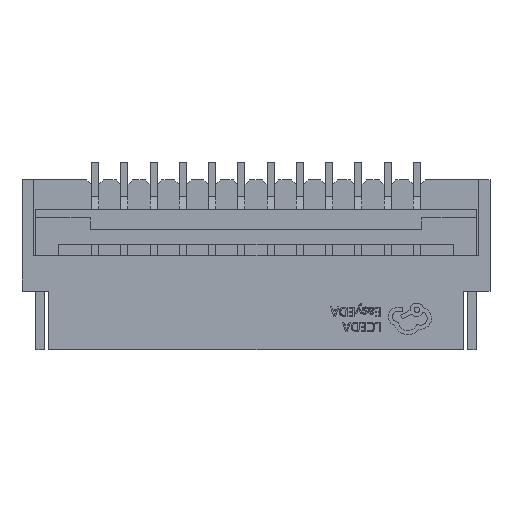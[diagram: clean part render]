
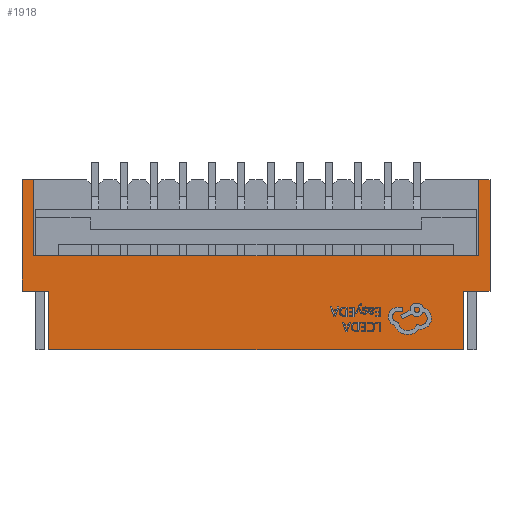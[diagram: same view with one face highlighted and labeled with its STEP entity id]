
A CAD part, top view. The second image highlights one B-rep face of the part: STEP entity #1918.
In plain terms, the highlighted planar face has unit normal (0, 0, 1).
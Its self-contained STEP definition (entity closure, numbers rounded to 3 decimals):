
#712 = ORIENTED_EDGE ( 'NONE', *, *, #15984, .T. ) ;
#748 = ORIENTED_EDGE ( 'NONE', *, *, #11835, .T. ) ;
#1126 = CARTESIAN_POINT ( 'NONE',  ( -0.79, -2.67, 0.9 ) ) ;
#1417 = ORIENTED_EDGE ( 'NONE', *, *, #8924, .F. ) ;
#1729 = LINE ( 'NONE', #1126, #20222 ) ;
#1918 = ADVANCED_FACE ( 'NONE', ( #11976 ), #23807, .T. ) ;
#2127 = CARTESIAN_POINT ( 'NONE',  ( 6.55, 0.23, 0.9 ) ) ;
#2339 = VERTEX_POINT ( 'NONE', #23339 ) ;
#2663 = CARTESIAN_POINT ( 'NONE',  ( 6.29, -2.67, 0.9 ) ) ;
#2840 = VECTOR ( 'NONE', #31603, 1000. ) ;
#3577 = CARTESIAN_POINT ( 'NONE',  ( 0., 0., 0.9 ) ) ;
#4709 = CARTESIAN_POINT ( 'NONE',  ( -1.25, 0.23, 0.9 ) ) ;
#5162 = DIRECTION ( 'NONE',  ( 0., -1., 0. ) ) ;
#5936 = CARTESIAN_POINT ( 'NONE',  ( 6.55, 0.23, 0.9 ) ) ;
#6468 = VERTEX_POINT ( 'NONE', #8246 ) ;
#7051 = VERTEX_POINT ( 'NONE', #34830 ) ;
#7544 = VECTOR ( 'NONE', #27692, 1000. ) ;
#7835 = LINE ( 'NONE', #10359, #36361 ) ;
#7989 = VECTOR ( 'NONE', #37404, 1000. ) ;
#8024 = DIRECTION ( 'NONE',  ( 0., 1., 0. ) ) ;
#8246 = CARTESIAN_POINT ( 'NONE',  ( -0.79, -1.67, 0.9 ) ) ;
#8552 = ORIENTED_EDGE ( 'NONE', *, *, #18562, .T. ) ;
#8641 = EDGE_CURVE ( 'NONE', #27806, #38241, #20383, .T. ) ;
#8924 = EDGE_CURVE ( 'NONE', #27338, #23058, #22689, .T. ) ;
#10004 = CARTESIAN_POINT ( 'NONE',  ( 6.29, -1.67, 0.9 ) ) ;
#10261 = DIRECTION ( 'NONE',  ( 1., 0., 0. ) ) ;
#10359 = CARTESIAN_POINT ( 'NONE',  ( -1.05, 0.23, 0.9 ) ) ;
#10880 = DIRECTION ( 'NONE',  ( 0., 1., 0. ) ) ;
#10942 = DIRECTION ( 'NONE',  ( -1., 0., 0. ) ) ;
#11778 = ORIENTED_EDGE ( 'NONE', *, *, #37652, .T. ) ;
#11835 = EDGE_CURVE ( 'NONE', #31482, #2339, #31291, .T. ) ;
#11976 = FACE_OUTER_BOUND ( 'NONE', #19871, .T. ) ;
#12383 = ORIENTED_EDGE ( 'NONE', *, *, #27899, .F. ) ;
#12714 = ORIENTED_EDGE ( 'NONE', *, *, #28575, .T. ) ;
#12867 = EDGE_CURVE ( 'NONE', #13196, #13454, #33117, .T. ) ;
#13196 = VERTEX_POINT ( 'NONE', #26060 ) ;
#13454 = VERTEX_POINT ( 'NONE', #33351 ) ;
#13772 = LINE ( 'NONE', #13979, #2840 ) ;
#13979 = CARTESIAN_POINT ( 'NONE',  ( -1.25, 0.23, 0.9 ) ) ;
#14414 = CARTESIAN_POINT ( 'NONE',  ( 6.29, -2.67, 0.9 ) ) ;
#14722 = EDGE_CURVE ( 'NONE', #31482, #32443, #7835, .T. ) ;
#14929 = VECTOR ( 'NONE', #10942, 1000. ) ;
#15044 = VERTEX_POINT ( 'NONE', #32690 ) ;
#15984 = EDGE_CURVE ( 'NONE', #7051, #6468, #28491, .T. ) ;
#16554 = DIRECTION ( 'NONE',  ( 0., -1., 0. ) ) ;
#16630 = LINE ( 'NONE', #19884, #38086 ) ;
#18345 = DIRECTION ( 'NONE',  ( 0., 0., 1. ) ) ;
#18562 = EDGE_CURVE ( 'NONE', #2339, #7051, #37021, .T. ) ;
#19593 = CARTESIAN_POINT ( 'NONE',  ( -1.25, -1.67, 0.9 ) ) ;
#19871 = EDGE_LOOP ( 'NONE', ( #28306, #748, #8552, #712, #21261, #11778, #37959, #35184, #31724, #12714, #1417, #12383 ) ) ;
#19884 = CARTESIAN_POINT ( 'NONE',  ( -0.79, -1.67, 0.9 ) ) ;
#20222 = VECTOR ( 'NONE', #27896, 1000. ) ;
#20383 = LINE ( 'NONE', #14414, #31714 ) ;
#21040 = CARTESIAN_POINT ( 'NONE',  ( -1.05, -1.07, 0.9 ) ) ;
#21261 = ORIENTED_EDGE ( 'NONE', *, *, #29494, .T. ) ;
#21316 = VECTOR ( 'NONE', #22988, 1000. ) ;
#21788 = CARTESIAN_POINT ( 'NONE',  ( 6.55, -1.07, 0.9 ) ) ;
#22689 = LINE ( 'NONE', #2127, #27353 ) ;
#22988 = DIRECTION ( 'NONE',  ( 1., 0., 0. ) ) ;
#23058 = VERTEX_POINT ( 'NONE', #5936 ) ;
#23339 = CARTESIAN_POINT ( 'NONE',  ( -1.25, 0.23, 0.9 ) ) ;
#23807 = PLANE ( 'NONE',  #31815 ) ;
#25836 = DIRECTION ( 'NONE',  ( 0., -1., 0. ) ) ;
#25838 = VECTOR ( 'NONE', #10261, 1000. ) ;
#26060 = CARTESIAN_POINT ( 'NONE',  ( 6.75, -1.67, 0.9 ) ) ;
#26169 = EDGE_CURVE ( 'NONE', #38241, #13196, #33658, .T. ) ;
#27338 = VERTEX_POINT ( 'NONE', #21788 ) ;
#27353 = VECTOR ( 'NONE', #10880, 1000. ) ;
#27692 = DIRECTION ( 'NONE',  ( 0., 1., 0. ) ) ;
#27806 = VERTEX_POINT ( 'NONE', #2663 ) ;
#27896 = DIRECTION ( 'NONE',  ( 1., 0., 0. ) ) ;
#27899 = EDGE_CURVE ( 'NONE', #32443, #27338, #28830, .T. ) ;
#28306 = ORIENTED_EDGE ( 'NONE', *, *, #14722, .F. ) ;
#28491 = LINE ( 'NONE', #19593, #7989 ) ;
#28575 = EDGE_CURVE ( 'NONE', #13454, #23058, #13772, .T. ) ;
#28830 = LINE ( 'NONE', #37515, #21316 ) ;
#29494 = EDGE_CURVE ( 'NONE', #6468, #15044, #16630, .T. ) ;
#29856 = CARTESIAN_POINT ( 'NONE',  ( 6.75, 0.23, 0.9 ) ) ;
#30309 = CARTESIAN_POINT ( 'NONE',  ( -1.05, 0.23, 0.9 ) ) ;
#30606 = VECTOR ( 'NONE', #25836, 1000. ) ;
#30760 = DIRECTION ( 'NONE',  ( 1., 0., 0. ) ) ;
#31291 = LINE ( 'NONE', #4709, #14929 ) ;
#31482 = VERTEX_POINT ( 'NONE', #30309 ) ;
#31603 = DIRECTION ( 'NONE',  ( -1., 0., 0. ) ) ;
#31714 = VECTOR ( 'NONE', #8024, 1000. ) ;
#31724 = ORIENTED_EDGE ( 'NONE', *, *, #12867, .T. ) ;
#31815 = AXIS2_PLACEMENT_3D ( 'NONE', #3577, #18345, #30760 ) ;
#32443 = VERTEX_POINT ( 'NONE', #21040 ) ;
#32690 = CARTESIAN_POINT ( 'NONE',  ( -0.79, -2.67, 0.9 ) ) ;
#33117 = LINE ( 'NONE', #29856, #7544 ) ;
#33351 = CARTESIAN_POINT ( 'NONE',  ( 6.75, 0.23, 0.9 ) ) ;
#33658 = LINE ( 'NONE', #34219, #25838 ) ;
#34219 = CARTESIAN_POINT ( 'NONE',  ( 6.29, -1.67, 0.9 ) ) ;
#34279 = CARTESIAN_POINT ( 'NONE',  ( -1.25, 0.23, 0.9 ) ) ;
#34830 = CARTESIAN_POINT ( 'NONE',  ( -1.25, -1.67, 0.9 ) ) ;
#35184 = ORIENTED_EDGE ( 'NONE', *, *, #26169, .T. ) ;
#36361 = VECTOR ( 'NONE', #16554, 1000. ) ;
#37021 = LINE ( 'NONE', #34279, #30606 ) ;
#37404 = DIRECTION ( 'NONE',  ( 1., 0., 0. ) ) ;
#37515 = CARTESIAN_POINT ( 'NONE',  ( -1.05, -1.07, 0.9 ) ) ;
#37652 = EDGE_CURVE ( 'NONE', #15044, #27806, #1729, .T. ) ;
#37959 = ORIENTED_EDGE ( 'NONE', *, *, #8641, .T. ) ;
#38086 = VECTOR ( 'NONE', #5162, 1000. ) ;
#38241 = VERTEX_POINT ( 'NONE', #10004 ) ;
